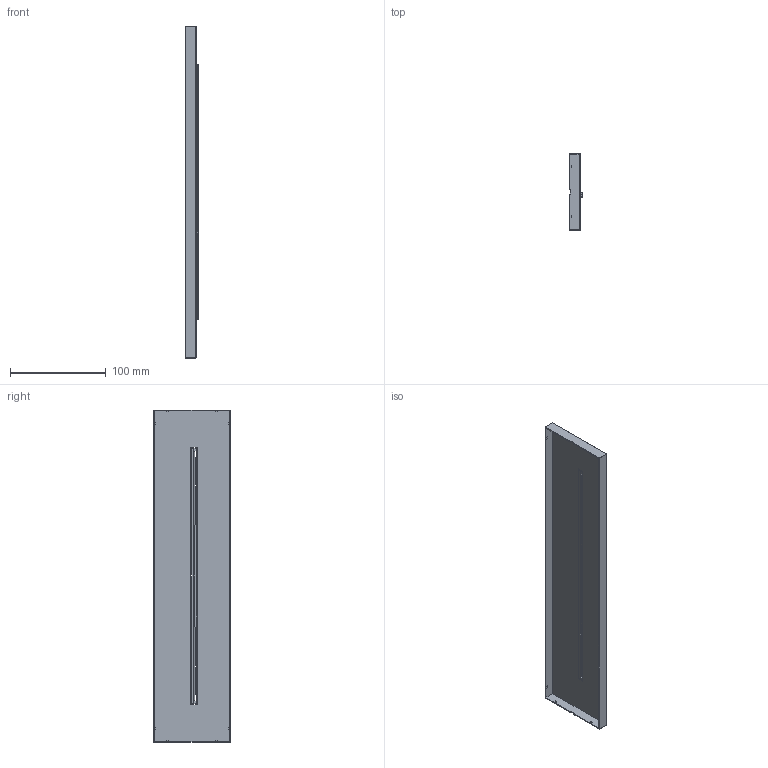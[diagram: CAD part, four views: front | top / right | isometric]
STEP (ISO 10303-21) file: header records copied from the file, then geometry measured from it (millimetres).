
FILE_DESCRIPTION(/* description */ ('Unknown'),/* implementation_level */ '2;1');
FILE_NAME(/* name */ 'RE052',/* time_stamp */ '2023-11-28T15:52:06+01:00',/* author */ ('Unknown'),/* organization */ ('Unknown'),/* preprocessor_version */ 'ST-DEVELOPER v18.102',/* originating_system */ 'Solid Edge',/* authorisation */ 'Unknown');
FILE_SCHEMA (('AUTOMOTIVE_DESIGN {1 0 10303 214 3 1 1}'));
Length unit declared in the file: millimetre
Products named in the file (7): RE052-00; RE052-001_oa_0; C127074_03801ZZ; RE052-002_oa_1; A156007_50300ZZ_oa_2; A067092_51300ZZ_oa_3; Parte1
Assembly tree (6 placements, depth 3):
  RE052-00
    RE052-001_oa_0
      C127074_03801ZZ
    RE052-002_oa_1
      A156007_50300ZZ_oa_2
      A067092_51300ZZ_oa_3
    Parte1
Bounding box: 13.49 x 80 x 346 mm (x, y, z)
Volume: 37853.9 mm3; surface area: 75783.6 mm2
Topology: 11 solids, 11 shells, 130 faces, 304 edges, 192 vertices
Faces by surface type: plane 91, cylinder 25, bspline 6, sphere 4, torus 4
Entity records: 3928 total; most frequent: CARTESIAN_POINT 789, ORIENTED_EDGE 600, DIRECTION 590, EDGE_CURVE 300, LINE 236, VECTOR 236, VERTEX_POINT 192, AXIS2_PLACEMENT_3D 177
